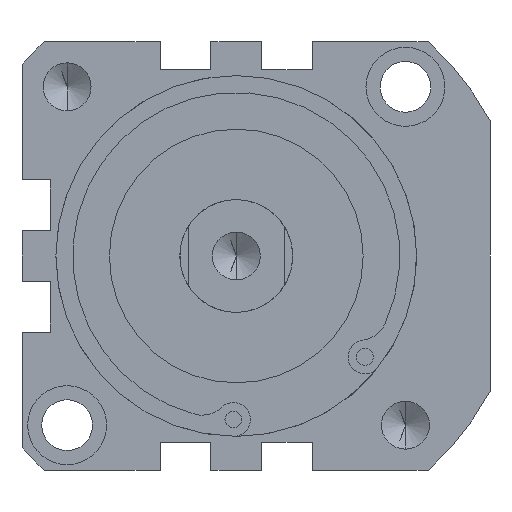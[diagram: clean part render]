
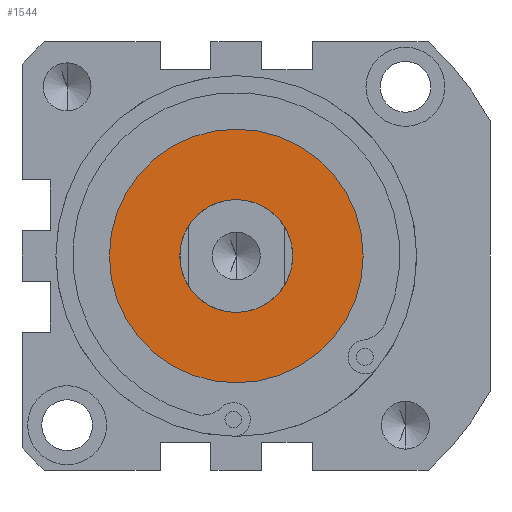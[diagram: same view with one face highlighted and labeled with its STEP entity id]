
A CAD part, front view. The second image highlights one B-rep face of the part: STEP entity #1544.
In plain terms, the highlighted planar face has unit normal (0, -1, 0).
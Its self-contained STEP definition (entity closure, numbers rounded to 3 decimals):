
#17 = CARTESIAN_POINT ( 'NONE',  ( 0., -66., 0. ) ) ;
#148 = ORIENTED_EDGE ( 'NONE', *, *, #2788, .F. ) ;
#269 = ORIENTED_EDGE ( 'NONE', *, *, #1189, .F. ) ;
#374 = PLANE ( 'NONE',  #2497 ) ;
#455 = CARTESIAN_POINT ( 'NONE',  ( 0., -66., 0. ) ) ;
#622 = CIRCLE ( 'NONE', #817, 22.5 ) ;
#735 = DIRECTION ( 'NONE',  ( 0., -1., 0. ) ) ;
#817 = AXIS2_PLACEMENT_3D ( 'NONE', #2281, #4312, #3300 ) ;
#1097 = VERTEX_POINT ( 'NONE', #1257 ) ;
#1124 = CARTESIAN_POINT ( 'NONE',  ( 0., -66., -22.5 ) ) ;
#1166 = VERTEX_POINT ( 'NONE', #1124 ) ;
#1189 = EDGE_CURVE ( 'NONE', #3406, #1916, #2777, .T. ) ;
#1257 = CARTESIAN_POINT ( 'NONE',  ( 0., -66., 22.5 ) ) ;
#1375 = DIRECTION ( 'NONE',  ( 0., 1., 0. ) ) ;
#1378 = AXIS2_PLACEMENT_3D ( 'NONE', #3827, #2100, #1813 ) ;
#1411 = FACE_BOUND ( 'NONE', #3251, .T. ) ;
#1544 = ADVANCED_FACE ( 'NONE', ( #3512, #1411 ), #374, .F. ) ;
#1634 = AXIS2_PLACEMENT_3D ( 'NONE', #455, #735, #4141 ) ;
#1707 = CIRCLE ( 'NONE', #1634, 10. ) ;
#1713 = ORIENTED_EDGE ( 'NONE', *, *, #2987, .F. ) ;
#1742 = DIRECTION ( 'NONE',  ( 0., 1., 0. ) ) ;
#1813 = DIRECTION ( 'NONE',  ( 0., 0., 1. ) ) ;
#1916 = VERTEX_POINT ( 'NONE', #3148 ) ;
#2100 = DIRECTION ( 'NONE',  ( 0., -1., 0. ) ) ;
#2190 = EDGE_CURVE ( 'NONE', #1166, #1097, #622, .T. ) ;
#2281 = CARTESIAN_POINT ( 'NONE',  ( 0., -66., 0. ) ) ;
#2429 = DIRECTION ( 'NONE',  ( 0., 0., 1. ) ) ;
#2497 = AXIS2_PLACEMENT_3D ( 'NONE', #3433, #1742, #2429 ) ;
#2688 = CIRCLE ( 'NONE', #4167, 22.5 ) ;
#2777 = CIRCLE ( 'NONE', #1378, 10. ) ;
#2788 = EDGE_CURVE ( 'NONE', #1916, #3406, #1707, .T. ) ;
#2871 = EDGE_LOOP ( 'NONE', ( #3577, #1713 ) ) ;
#2987 = EDGE_CURVE ( 'NONE', #1097, #1166, #2688, .T. ) ;
#3148 = CARTESIAN_POINT ( 'NONE',  ( 0., -66., -10. ) ) ;
#3251 = EDGE_LOOP ( 'NONE', ( #269, #148 ) ) ;
#3300 = DIRECTION ( 'NONE',  ( 0., 0., 1. ) ) ;
#3406 = VERTEX_POINT ( 'NONE', #4264 ) ;
#3433 = CARTESIAN_POINT ( 'NONE',  ( 0., -66., 0. ) ) ;
#3512 = FACE_OUTER_BOUND ( 'NONE', #2871, .T. ) ;
#3577 = ORIENTED_EDGE ( 'NONE', *, *, #2190, .F. ) ;
#3678 = DIRECTION ( 'NONE',  ( 0., 0., 1. ) ) ;
#3827 = CARTESIAN_POINT ( 'NONE',  ( 0., -66., 0. ) ) ;
#4141 = DIRECTION ( 'NONE',  ( 0., 0., 1. ) ) ;
#4167 = AXIS2_PLACEMENT_3D ( 'NONE', #17, #1375, #3678 ) ;
#4264 = CARTESIAN_POINT ( 'NONE',  ( 0., -66., 10. ) ) ;
#4312 = DIRECTION ( 'NONE',  ( 0., 1., 0. ) ) ;
